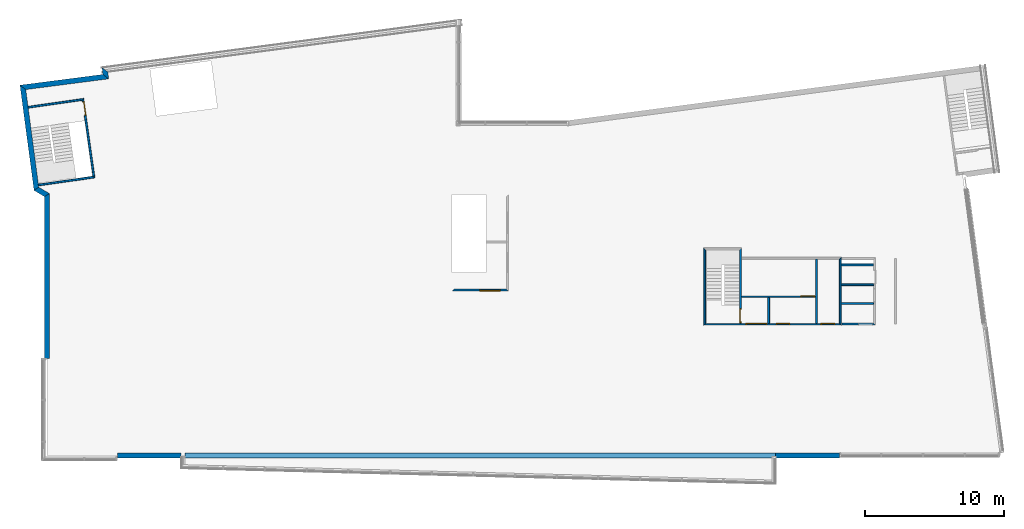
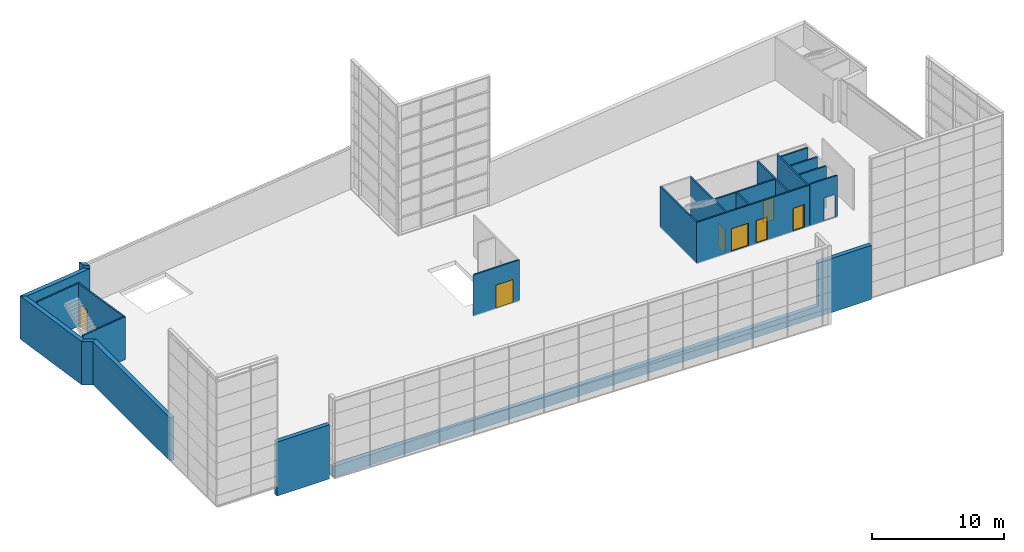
# One storey, part 19 of 27: 22 walls, 7 doors, 9 openings.
"""IFC2X3 building model written with IfcOpenShell, lengths in metres."""

from ifc_helpers import new_model, entity, si_unit, converted_unit, money_unit, direction, frame, origin_with_axes, origin_2d_with_axis, place, context, subcontext, project, spatial, polyline, rectangle, outline, extrude, faceted_brep, source, transform, mapped, material, material_list, layer, layer_set, layer_usage, type_object, element, fill, save


model = new_model("IFC2X3")

# Units and contexts
model_context = context("Model", 3, precision=1e-05, world=origin_with_axes(), true_north=direction((0.0, 1.0)))
body_context = subcontext(model_context, "Body", "Model", "MODEL_VIEW")
ifc_project = project(units=[si_unit("LENGTHUNIT", "METRE"), si_unit("AREAUNIT", "SQUARE_METRE"), si_unit("VOLUMEUNIT", "CUBIC_METRE"), converted_unit("PLANEANGLEUNIT", "DEGREE", entity("IfcPlaneAngleMeasure", 0.0174532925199), si_unit("PLANEANGLEUNIT", "RADIAN"), dimensions=[0, 0, 0, 0, 0, 0, 0]), si_unit("SOLIDANGLEUNIT", "STERADIAN"), money_unit("EUR"), converted_unit("TIMEUNIT", "Year", entity("IfcTimeMeasure", 31556926.0), si_unit("TIMEUNIT", "SECOND"), dimensions=[0, 0, 0, 0, 0, 0, 0]), si_unit("MASSUNIT", "GRAM"), si_unit("THERMODYNAMICTEMPERATUREUNIT", "DEGREE_CELSIUS"), si_unit("LUMINOUSINTENSITYUNIT", "LUMEN")], contexts=[model_context])

# Site, building, storey
site_placement = place(None, origin_with_axes())
site = spatial("IfcSite", under=ifc_project, at=site_placement, Name="Undefined", CompositionType="ELEMENT")
building_placement = place(site_placement, origin_with_axes())
building = spatial("IfcBuilding", under=site, at=building_placement, Name="Undefined", CompositionType="ELEMENT")
storey_placement = place(building_placement, frame((0.0, 0.0, 5.4), z_axis=(0.0, 0.0, 1.0), x_axis=(1.0, 0.0, 0.0)))
storey = spatial("IfcBuildingStorey", under=building, at=storey_placement, Name="R+1", CompositionType="ELEMENT", Elevation=5.4)

# Walls
ifc_material_1 = material(Name="Finition int - Enduit pl\x89tre")
ifc_layer_1 = layer(ifc_material_1, 0.015, ventilated="UNKNOWN")
ifc_material_2 = material(Name="Struct. - Parpaing b\x8eton")
ifc_layer_2 = layer(ifc_material_2, 0.1, ventilated="UNKNOWN")
ifc_layer_3 = layer(ifc_material_1, 0.015, ventilated="UNKNOWN")
ifc_layer_set_1 = layer_set([ifc_layer_1, ifc_layer_2, ifc_layer_3], Name="0.0-Cloison: parpaing + pl\x89tre 2 faces copie")
ifc_layer_usage_1 = layer_usage(ifc_layer_set_1, "AXIS2", "POSITIVE", 0.0)
wall_type_1 = type_object("IfcWallType", Name="0.0-Cloison: parpaing + pl\x89tre 2 faces copie 130", PredefinedType="NOTDEFINED")
wall_1_placement = place(storey_placement, frame((55.2463765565, 9.3149999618, -0.1), z_axis=(0.0, 0.0, 1.0), x_axis=(0.0, 1.0, 0.0)))
element("IfcWallStandardCase", 1, at=wall_1_placement, inside=storey, type_object=wall_type_1, material=ifc_layer_usage_1, Name="Wall_Int", context=body_context, shape_type="SweptSolid", body=[
    extrude(outline(polyline([(0.0, 0.0), (4.6200000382, 0.0), (4.6200000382, 0.13), (0.0, 0.13), (0.0, 0.0)])), origin_with_axes(), (0.0, 0.0, 1.0), 3.825),
])
ifc_layer_usage_2 = layer_usage(ifc_layer_set_1, "AXIS2", "POSITIVE", -0.05)
wall_2_placement = place(storey_placement, frame((59.375, 12.115, -0.1), z_axis=(0.0, 0.0, 1.0), x_axis=(-1.0, 0.0, 0.0)))
element("IfcWallStandardCase", 2, at=wall_2_placement, inside=storey, type_object=wall_type_1, material=ifc_layer_usage_2, Name="VOILE_10CM", context=body_context, shape_type="SweptSolid", body=[
    extrude(outline(polyline([(0.08, -0.05), (2.41, -0.05), (2.41, 0.08), (0.08, 0.08), (0.08, -0.05)])), origin_with_axes(), (0.0, 0.0, 1.0), 3.88499999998),
])

# Wall, openings, doors
ifc_layer_usage_3 = layer_usage(ifc_layer_set_1, "AXIS2", "POSITIVE", 0.0)
wall_3_placement = place(storey_placement, frame((56.835, 9.3149999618, -0.1), z_axis=(0.0, 0.0, 1.0), x_axis=(-1.0, 0.0, 0.0)))
wall_3 = element("IfcWallStandardCase", 3, at=wall_3_placement, inside=storey, type_object=wall_type_1, material=ifc_layer_usage_3, Name="Wall_Int_02", context=body_context, shape_type="SweptSolid", body=[
    extrude(outline(polyline([(0.0, 0.0), (9.62, 0.0), (9.75, 0.13), (-0.13, 0.13), (0.0, 0.0)])), origin_with_axes(), (0.0, 0.0, 1.0), 3.825),
])
opening_1_placement = place(wall_3_placement, frame((5.97548555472, 0.0, 0.1), z_axis=(0.0, 0.0, 1.0), x_axis=(1.0, 0.0, 0.0)))
opening_1 = element("IfcOpeningElement", 4, at=opening_1_placement, cuts=wall_3, Name="DOOR", context=body_context, shape_type="SweptSolid", body=[
    extrude(rectangle(XDim=1.5, YDim=2.1, at=origin_2d_with_axis()), frame((0.0, -0.13, 1.05), z_axis=(0.0, 1.0, 0.0), x_axis=(1.0, 0.0, 0.0)), (0.0, 0.0, 1.0), 0.13),
    extrude(rectangle(XDim=1.5, YDim=2.1, at=origin_2d_with_axis()), frame((0.0, 0.13, 1.05), z_axis=(0.0, -1.0, 0.0), x_axis=(1.0, 0.0, 0.0)), (0.0, 0.0, 1.0), 0.13),
])
opening_2_placement = place(wall_3_placement, frame((4.05960224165, 0.0, 0.1), z_axis=(0.0, 0.0, 1.0), x_axis=(1.0, 0.0, 0.0)))
opening_2 = element("IfcOpeningElement", 5, at=opening_2_placement, cuts=wall_3, Name="DOOR_1000", context=body_context, shape_type="SweptSolid", body=[
    extrude(rectangle(XDim=1.0, YDim=2.1, at=origin_2d_with_axis()), frame((0.0, -0.13, 1.05), z_axis=(0.0, 1.0, 0.0), x_axis=(1.0, 0.0, 0.0)), (0.0, 0.0, 1.0), 0.13),
    extrude(rectangle(XDim=1.0, YDim=2.1, at=origin_2d_with_axis()), frame((0.0, 0.13, 1.05), z_axis=(0.0, -1.0, 0.0), x_axis=(1.0, 0.0, 0.0)), (0.0, 0.0, 1.0), 0.13),
])
opening_3_placement = place(wall_3_placement, frame((0.834117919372, 0.0, 0.1), z_axis=(0.0, 0.0, 1.0), x_axis=(1.0, 0.0, 0.0)))
opening_3 = element("IfcOpeningElement", 6, at=opening_3_placement, cuts=wall_3, Name="DOOR_1000", context=body_context, shape_type="SweptSolid", body=[
    extrude(rectangle(XDim=1.0, YDim=2.1, at=origin_2d_with_axis()), frame((0.0, -0.13, 1.05), z_axis=(0.0, 1.0, 0.0), x_axis=(1.0, 0.0, 0.0)), (0.0, 0.0, 1.0), 0.13),
    extrude(rectangle(XDim=1.0, YDim=2.1, at=origin_2d_with_axis()), frame((0.0, 0.13, 1.05), z_axis=(0.0, -1.0, 0.0), x_axis=(1.0, 0.0, 0.0)), (0.0, 0.0, 1.0), 0.13),
])
ifc_material_3 = material(Name="Background Fill-International")
ifc_material_4 = material(Name="Air Space")
ifc_material_list = material_list([ifc_material_3, ifc_material_4])
door_style_1 = type_object("IfcDoorStyle", Name="IFC Porte - Simple battant", ConstructionType="NOTDEFINED", OperationType="SINGLE_SWING_LEFT", ParameterTakesPrecedence=True, Sizeable=False)
shared_shape_1 = source(origin_with_axes(), body_context, "Body", "Brep", [
    faceted_brep([(0.5, 0.0, 0.0), (0.5, -0.1, 0.0), (0.45, -0.1, 0.0), (0.45, 0.0, 0.0), (0.5, 0.0, 2.1), (0.5, -0.1, 2.1), (-0.5, -0.1, 2.1), (-0.5, -0.1, 0.0), (-0.45, -0.1, 0.0), (-0.45, -0.1, 2.05), (0.45, -0.1, 2.05), (0.45, 0.0, 2.05), (-0.45, 0.0, 2.05), (-0.45, 0.0, 0.0), (-0.5, 0.0, 0.0), (-0.5, 0.0, 2.1)], [[[0, 1, 2, 3]], [[4, 5, 1, 0]], [[1, 5, 6, 7, 8, 9, 10, 2]], [[3, 2, 10, 11]], [[0, 3, 11, 12, 13, 14, 15, 4]], [[15, 6, 5, 4]], [[14, 7, 6, 15]], [[13, 8, 7, 14]], [[12, 9, 8, 13]], [[11, 10, 9, 12]]]),
    faceted_brep([(-0.45, 0.0, 0.0), (-0.45, -0.04, 0.0), (-0.45, -0.04, 2.05), (-0.45, 0.0, 2.05), (0.45, 0.0, 0.0), (0.45, -0.04, 0.0), (0.45, -0.04, 2.05), (0.45, 0.0, 2.05)], [[[0, 1, 2, 3]], [[4, 5, 1, 0]], [[1, 5, 6, 2]], [[3, 2, 6, 7]], [[0, 3, 7, 4]], [[7, 6, 5, 4]]]),
])
door_1_placement = place(opening_2_placement, frame((0.5, 0.0, 0.0), z_axis=(0.0, 0.0, 1.0), x_axis=(-1.0, 0.0, 0.0)))
door_1 = element("IfcDoor", 7, at=door_1_placement, inside=storey, type_object=door_style_1, material=ifc_material_list, Name="DOOR_1000", ObjectType="DOOR", OverallHeight=2.1, OverallWidth=1.0, context=body_context, shape_type="MappedRepresentation", body=[
    mapped(shared_shape_1, transform((0.5, 0.0, 0.0))),
])
fill(opening_2, door_1)
door_2_placement = place(opening_3_placement, frame((0.5, 0.0, 0.0), z_axis=(0.0, 0.0, 1.0), x_axis=(-1.0, 0.0, 0.0)))
door_2 = element("IfcDoor", 8, at=door_2_placement, inside=storey, type_object=door_style_1, material=ifc_material_list, Name="DOOR_1000", ObjectType="DOOR", OverallHeight=2.1, OverallWidth=1.0, context=body_context, shape_type="MappedRepresentation", body=[
    mapped(shared_shape_1, transform((0.5, 0.0, 0.0))),
])
fill(opening_3, door_2)
door_style_2 = type_object("IfcDoorStyle", Name="IFC Porte double - Simple battant", ConstructionType="ALUMINIUM", OperationType="DOUBLE_DOOR_SINGLE_SWING", ParameterTakesPrecedence=True, Sizeable=False)
shared_shape_2 = source(origin_with_axes(), body_context, "Body", "Brep", [
    faceted_brep([(0.75, 0.0, 0.0), (0.75, -0.1, 0.0), (0.7, -0.1, 0.0), (0.7, 0.0, 0.0), (0.75, 0.0, 2.1), (0.75, -0.1, 2.1), (-0.75, -0.1, 2.1), (-0.75, -0.1, 0.0), (-0.7, -0.1, 0.0), (-0.7, -0.1, 2.05), (0.7, -0.1, 2.05), (0.7, 0.0, 2.05), (-0.7, 0.0, 2.05), (-0.7, 0.0, 0.0), (-0.75, 0.0, 0.0), (-0.75, 0.0, 2.1)], [[[0, 1, 2, 3]], [[4, 5, 1, 0]], [[1, 5, 6, 7, 8, 9, 10, 2]], [[3, 2, 10, 11]], [[0, 3, 11, 12, 13, 14, 15, 4]], [[15, 6, 5, 4]], [[14, 7, 6, 15]], [[13, 8, 7, 14]], [[12, 9, 8, 13]], [[11, 10, 9, 12]]]),
    faceted_brep([(-0.7, 0.0, 0.0), (-0.7, -0.04, 0.0), (-0.7, -0.04, 2.05), (-0.7, 0.0, 2.05), (0.42, 0.0, 0.0), (0.42, -0.04, 0.0), (0.42, -0.04, 2.05), (0.42, 0.0, 2.05)], [[[0, 1, 2, 3]], [[4, 5, 1, 0]], [[1, 5, 6, 2]], [[3, 2, 6, 7]], [[0, 3, 7, 4]], [[7, 6, 5, 4]]]),
    faceted_brep([(0.7, 0.0, 0.0), (0.7, -0.04, 0.0), (0.42, -0.04, 0.0), (0.42, 0.0, 0.0), (0.7, 0.0, 2.05), (0.7, -0.04, 2.05), (0.42, -0.04, 2.05), (0.42, 0.0, 2.05)], [[[0, 1, 2, 3]], [[4, 5, 1, 0]], [[1, 5, 6, 2]], [[3, 2, 6, 7]], [[0, 3, 7, 4]], [[7, 6, 5, 4]]]),
])
door_3_placement = place(opening_1_placement, frame((0.75, 0.0, 0.0), z_axis=(0.0, 0.0, 1.0), x_axis=(-1.0, 0.0, 0.0)))
door_3 = element("IfcDoor", 9, at=door_3_placement, inside=storey, type_object=door_style_2, material=ifc_material_list, Name="DOOR", ObjectType="DOOR", OverallHeight=2.1, OverallWidth=1.5, context=body_context, shape_type="MappedRepresentation", body=[
    mapped(shared_shape_2, transform((0.75, 0.0, 0.0))),
])
fill(opening_1, door_3)

# Wall, opening
ifc_layer_usage_4 = layer_usage(ifc_layer_set_1, "AXIS2", "POSITIVE", -0.05)
wall_4_placement = place(storey_placement, frame((57.0135327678, 9.245, -0.1), z_axis=(0.0, 0.0, 1.0), x_axis=(1.0, 0.0, 0.0)))
wall_4 = element("IfcWallStandardCase", 10, at=wall_4_placement, inside=storey, type_object=wall_type_1, material=ifc_layer_usage_4, Name="VOILE_10CM", context=body_context, shape_type="SweptSolid", body=[
    extrude(outline(polyline([(0.0, -0.05), (2.41146723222, -0.05), (2.28146723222, 0.08), (0.0, 0.08), (0.0, -0.05)])), origin_with_axes(), (0.0, 0.0, 1.0), 3.88499999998),
])
opening_4_placement = place(wall_4_placement, frame((1.70624922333, 0.0, 0.1), z_axis=(0.0, 0.0, 1.0), x_axis=(1.0, 0.0, 0.0)))
element("IfcOpeningElement", 11, at=opening_4_placement, cuts=wall_4, Name="DOOR_1000", context=body_context, shape_type="SweptSolid", body=[
    extrude(rectangle(XDim=1.0, YDim=2.1, at=origin_2d_with_axis()), frame((0.0, 0.13, 1.05), z_axis=(0.0, 1.0, 0.0), x_axis=(1.0, 0.0, 0.0)), (0.0, 0.0, -1.0), 0.39),
    extrude(rectangle(XDim=1.02, YDim=2.11, at=origin_2d_with_axis()), frame((0.0, 0.21, 1.055), z_axis=(0.0, 1.0, 0.0), x_axis=(1.0, 0.0, 0.0)), (0.0, 0.0, -1.0), 0.13),
    extrude(rectangle(XDim=1.02, YDim=2.11, at=origin_2d_with_axis()), frame((0.0, -0.18, 1.055), z_axis=(0.0, -1.0, 0.0), x_axis=(1.0, 0.0, 0.0)), (0.0, 0.0, -1.0), 0.13),
])

# Wall
ifc_layer_usage_5 = layer_usage(ifc_layer_set_1, "AXIS2", "POSITIVE", 0.0)
wall_5_placement = place(storey_placement, frame((51.6756910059, 11.1599999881, -0.1), z_axis=(0.0, 0.0, 1.0), x_axis=(0.0, -1.0, 0.0)))
element("IfcWallStandardCase", 12, at=wall_5_placement, inside=storey, type_object=wall_type_1, material=ifc_layer_usage_5, Name="Wall_Int", context=body_context, shape_type="SweptSolid", body=[
    extrude(outline(polyline([(0.0, 0.0), (1.84500002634, 0.0), (1.84500002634, 0.13), (0.0, 0.13), (0.0, 0.0)])), origin_with_axes(), (0.0, 0.0, 1.0), 3.825),
])

# Wall, opening, door
ifc_layer_usage_6 = layer_usage(ifc_layer_set_1, "AXIS2", "POSITIVE", 0.0)
wall_6_placement = place(storey_placement, frame((49.6599999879, 11.1599999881, -0.1), z_axis=(0.0, 0.0, 1.0), x_axis=(1.0, 0.0, 0.0)))
wall_6 = element("IfcWallStandardCase", 13, at=wall_6_placement, inside=storey, type_object=wall_type_1, material=ifc_layer_usage_6, Name="Wall_Int_02", context=body_context, shape_type="SweptSolid", body=[
    extrude(outline(polyline([(0.13, 0.0), (5.45637656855, 0.0), (5.45637656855, 0.13), (0.13, 0.13), (0.13, 0.0)])), origin_with_axes(), (0.0, 0.0, 1.0), 3.825),
])
opening_5_placement = place(wall_6_placement, frame((4.89427702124, 0.0, 0.1), z_axis=(0.0, 0.0, 1.0), x_axis=(1.0, 0.0, 0.0)))
opening_5 = element("IfcOpeningElement", 14, at=opening_5_placement, cuts=wall_6, Name="DOOR_1000", context=body_context, shape_type="SweptSolid", body=[
    extrude(rectangle(XDim=1.0, YDim=2.1, at=origin_2d_with_axis()), frame((0.0, 0.26, 1.05), z_axis=(0.0, -1.0, 0.0), x_axis=(1.0, 0.0, 0.0)), (0.0, 0.0, 1.0), 0.13),
    extrude(rectangle(XDim=1.0, YDim=2.1, at=origin_2d_with_axis()), frame((0.0, 0.0, 1.05), z_axis=(0.0, 1.0, 0.0), x_axis=(1.0, 0.0, 0.0)), (0.0, 0.0, 1.0), 0.13),
])
door_style_3 = type_object("IfcDoorStyle", Name="IFC Porte - Simple battant", ConstructionType="NOTDEFINED", OperationType="SINGLE_SWING_LEFT", ParameterTakesPrecedence=True, Sizeable=False)
door_4_placement = place(opening_5_placement, frame((-0.5, 0.0, 0.0), z_axis=(0.0, 0.0, 1.0), x_axis=(1.0, 0.0, 0.0)))
door_4 = element("IfcDoor", 15, at=door_4_placement, inside=storey, type_object=door_style_3, material=ifc_material_list, Name="DOOR_1000", ObjectType="DOOR", OverallHeight=2.1, OverallWidth=1.0, context=body_context, shape_type="MappedRepresentation", body=[
    mapped(shared_shape_1, transform((0.5, 0.13, 0.0))),
])
fill(opening_5, door_4)

# Walls
ifc_layer_usage_7 = layer_usage(ifc_layer_set_1, "AXIS2", "POSITIVE", 0.0)
wall_7_placement = place(storey_placement, frame((-1.89961707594, 24.7471726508, 0.0), z_axis=(0.0, 0.0, 1.0), x_axis=(0.989875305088, 0.141939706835, 0.0)))
element("IfcWallStandardCase", 16, at=wall_7_placement, inside=storey, type_object=wall_type_1, material=ifc_layer_usage_7, Name="Wall_Int_02", context=body_context, shape_type="SweptSolid", body=[
    extrude(outline(polyline([(0.37001767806, 0.0), (4.28616245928, 0.0), (4.41629541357, 0.13), (0.371288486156, 0.13), (0.37001767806, 0.0)])), origin_with_axes(), (0.0, 0.0, 1.0), 3.95),
])
ifc_layer_usage_8 = layer_usage(ifc_layer_set_1, "AXIS2", "POSITIVE", 0.0)
wall_8_placement = place(storey_placement, frame((-1.15387797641, 19.1581406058, 0.0), z_axis=(0.0, 0.0, 1.0), x_axis=(0.990116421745, 0.140247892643, 0.0)))
element("IfcWallStandardCase", 17, at=wall_8_placement, inside=storey, type_object=wall_type_1, material=ifc_layer_usage_8, Name="Wall_Int_02", context=body_context, shape_type="SweptSolid", body=[
    extrude(outline(polyline([(0.370012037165, 0.0), (4.46551461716, 0.0), (4.33542531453, 0.13), (0.371060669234, 0.13), (0.370012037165, 0.0)])), origin_with_axes(), (0.0, 0.0, 1.0), 3.95),
])

# Wall, opening, door
ifc_layer_usage_9 = layer_usage(ifc_layer_set_1, "AXIS2", "POSITIVE", 0.0)
wall_9_placement = place(storey_placement, frame((3.26750137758, 19.7844196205, 0.0), z_axis=(0.0, 0.0, 1.0), x_axis=(-0.140927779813, 0.990019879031, 0.0)))
wall_9 = element("IfcWallStandardCase", 18, at=wall_9_placement, inside=storey, type_object=wall_type_1, material=ifc_layer_usage_9, Name="Wall_Int_02", context=body_context, shape_type="SweptSolid", body=[
    extrude(outline(polyline([(0.0, 0.0), (5.77592896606, 0.0), (5.64579601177, 0.13), (0.13008930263, 0.13), (0.0, 0.0)])), origin_with_axes(), (0.0, 0.0, 1.0), 3.95),
])
opening_6_placement = place(wall_9_placement, frame((5.05291872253, 0.0, 0.0), z_axis=(0.0, 0.0, 1.0), x_axis=(1.0, 0.0, 0.0)))
opening_6 = element("IfcOpeningElement", 19, at=opening_6_placement, cuts=wall_9, Name="DOOR_1000", context=body_context, shape_type="SweptSolid", body=[
    extrude(rectangle(XDim=1.0, YDim=2.1, at=origin_2d_with_axis()), frame((0.0, -0.13, 1.05), z_axis=(0.0, 1.0, 0.0), x_axis=(1.0, 0.0, 0.0)), (0.0, 0.0, 1.0), 0.13),
    extrude(rectangle(XDim=1.0, YDim=2.1, at=origin_2d_with_axis()), frame((0.0, 0.13, 1.05), z_axis=(0.0, -1.0, 0.0), x_axis=(1.0, 0.0, 0.0)), (0.0, 0.0, 1.0), 0.13),
])
door_style_4 = type_object("IfcDoorStyle", Name="IFC Porte - Simple battant", ConstructionType="NOTDEFINED", OperationType="SINGLE_SWING_RIGHT", ParameterTakesPrecedence=True, Sizeable=False)
shared_shape_3 = source(origin_with_axes(), body_context, "Body", "Brep", [
    faceted_brep([(-0.5, 0.0, 0.0), (-0.45, 0.0, 0.0), (-0.45, -0.1, 0.0), (-0.5, -0.1, 0.0), (-0.5, 0.0, 2.1), (0.5, 0.0, 2.1), (0.5, 0.0, 0.0), (0.45, 0.0, 0.0), (0.45, 0.0, 2.05), (-0.45, 0.0, 2.05), (-0.45, -0.1, 2.05), (0.45, -0.1, 2.05), (0.45, -0.1, 0.0), (0.5, -0.1, 0.0), (0.5, -0.1, 2.1), (-0.5, -0.1, 2.1)], [[[0, 1, 2, 3]], [[0, 4, 5, 6, 7, 8, 9, 1]], [[1, 9, 10, 2]], [[3, 2, 10, 11, 12, 13, 14, 15]], [[4, 0, 3, 15]], [[5, 4, 15, 14]], [[6, 5, 14, 13]], [[7, 6, 13, 12]], [[8, 7, 12, 11]], [[9, 8, 11, 10]]]),
    faceted_brep([(0.45, 0.0, 0.0), (0.45, 0.0, 2.05), (0.45, -0.04, 2.05), (0.45, -0.04, 0.0), (-0.45, 0.0, 0.0), (-0.45, 0.0, 2.05), (-0.45, -0.04, 2.05), (-0.45, -0.04, 0.0)], [[[0, 1, 2, 3]], [[0, 4, 5, 1]], [[1, 5, 6, 2]], [[3, 2, 6, 7]], [[4, 0, 3, 7]], [[5, 4, 7, 6]]]),
])
door_5_placement = place(opening_6_placement, frame((0.5, 0.0, 0.0), z_axis=(0.0, 0.0, 1.0), x_axis=(-1.0, 0.0, 0.0)))
door_5 = element("IfcDoor", 20, at=door_5_placement, inside=storey, type_object=door_style_4, material=ifc_material_list, Name="DOOR_1000", ObjectType="DOOR", OverallHeight=2.1, OverallWidth=1.0, context=body_context, shape_type="MappedRepresentation", body=[
    mapped(shared_shape_3, transform((0.5, 0.0, 0.0))),
])
fill(opening_6, door_5)

# Wall
ifc_layer_usage_10 = layer_usage(ifc_layer_set_1, "AXIS2", "POSITIVE", 0.0)
wall_10_placement = place(storey_placement, frame((47.085, 14.6097478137, -0.1), z_axis=(0.0, 0.0, 1.0), x_axis=(0.0, -1.0, 0.0)))
element("IfcWallStandardCase", 21, at=wall_10_placement, inside=storey, type_object=wall_type_1, material=ifc_layer_usage_10, Name="Wall_Int_02", context=body_context, shape_type="SweptSolid", body=[
    extrude(outline(polyline([(-0.130000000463, 0.0), (5.42474785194, 0.0), (5.29474785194, 0.13), (-1.09773673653e-05, 0.13), (-0.130000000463, 0.0)])), origin_with_axes(), (0.0, 0.0, 1.0), 3.825),
])

# Wall, opening, door
ifc_layer_usage_11 = layer_usage(ifc_layer_set_1, "AXIS2", "POSITIVE", 0.0)
wall_11_placement = place(storey_placement, frame((49.6599999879, 14.6099652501, -0.1), z_axis=(0.0, 0.0, 1.0), x_axis=(0.0, -1.0, 0.0)))
wall_11 = element("IfcWallStandardCase", 22, at=wall_11_placement, inside=storey, type_object=wall_type_1, material=ifc_layer_usage_11, Name="Wall_Int_02", context=body_context, shape_type="SweptSolid", body=[
    extrude(outline(polyline([(0.0, 0.0), (5.29496528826, 0.0), (5.29496528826, 0.13), (-0.130010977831, 0.13), (0.0, 0.0)])), origin_with_axes(), (0.0, 0.0, 1.0), 3.825),
])
opening_7_placement = place(wall_11_placement, frame((4.73496525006, 0.0, 0.0), z_axis=(0.0, 0.0, 1.0), x_axis=(1.0, 0.0, 0.0)))
opening_7 = element("IfcOpeningElement", 23, at=opening_7_placement, cuts=wall_11, Name="DOOR_1000", context=body_context, shape_type="SweptSolid", body=[
    extrude(rectangle(XDim=1.0, YDim=2.1, at=origin_2d_with_axis()), frame((0.0, -0.13, 1.05), z_axis=(0.0, 1.0, 0.0), x_axis=(1.0, 0.0, 0.0)), (0.0, 0.0, 1.0), 0.13),
    extrude(rectangle(XDim=1.0, YDim=2.1, at=origin_2d_with_axis()), frame((0.0, 0.13, 1.05), z_axis=(0.0, -1.0, 0.0), x_axis=(1.0, 0.0, 0.0)), (0.0, 0.0, 1.0), 0.13),
])
door_6_placement = place(opening_7_placement, frame((0.5, 0.0, 0.0), z_axis=(0.0, 0.0, 1.0), x_axis=(-1.0, 0.0, 0.0)))
door_6 = element("IfcDoor", 24, at=door_6_placement, inside=storey, type_object=door_style_1, material=ifc_material_list, Name="DOOR_1000", ObjectType="DOOR", OverallHeight=2.1, OverallWidth=1.0, context=body_context, shape_type="MappedRepresentation", body=[
    mapped(shared_shape_1, transform((0.5, 0.0, 0.0))),
])
fill(opening_7, door_6)

# Walls
ifc_layer_usage_12 = layer_usage(ifc_layer_set_1, "AXIS2", "NEGATIVE", 0.05)
wall_12_placement = place(storey_placement, frame((59.375, 13.51, -0.1), z_axis=(0.0, 0.0, 1.0), x_axis=(-1.0, 0.0, 0.0)))
element("IfcWallStandardCase", 25, at=wall_12_placement, inside=storey, type_object=wall_type_1, material=ifc_layer_usage_12, Name="VOILE_10CM", context=body_context, shape_type="SweptSolid", body=[
    extrude(outline(polyline([(0.08, -0.08), (2.41, -0.08), (2.41, 0.05), (0.08, 0.05), (0.08, -0.08)])), origin_with_axes(), (0.0, 0.0, 1.0), 3.88499999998),
])
ifc_layer_usage_13 = layer_usage(ifc_layer_set_1, "AXIS2", "POSITIVE", -0.05)
wall_13_placement = place(storey_placement, frame((59.375, 10.7644683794, -0.1), z_axis=(0.0, 0.0, 1.0), x_axis=(-1.0, 0.0, 0.0)))
element("IfcWallStandardCase", 26, at=wall_13_placement, inside=storey, type_object=wall_type_1, material=ifc_layer_usage_13, Name="Wall_Int_07", context=body_context, shape_type="SweptSolid", body=[
    extrude(outline(polyline([(0.08, -0.05), (2.41, -0.05), (2.41, 0.08), (0.08, 0.08), (0.08, -0.05)])), origin_with_axes(), (0.0, 0.0, 1.0), 3.88499999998),
])
ifc_layer_usage_14 = layer_usage(ifc_layer_set_1, "AXIS2", "NEGATIVE", 0.0)
wall_14_placement = place(storey_placement, frame((56.835, 9.3149999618, -0.1), z_axis=(0.0, 0.0, 1.0), x_axis=(0.0, 1.0, 0.0)))
element("IfcWallStandardCase", 27, at=wall_14_placement, inside=storey, type_object=wall_type_1, material=ifc_layer_usage_14, Name="Wall_Int_07", context=body_context, shape_type="SweptSolid", body=[
    extrude(outline(polyline([(-0.13, -0.13), (4.7500000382, -0.13), (4.6200000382, 0.0), (0.0, 0.0), (-0.13, -0.13)])), origin_with_axes(), (0.0, 0.0, 1.0), 3.825),
])

# Wall, opening, door
ifc_layer_usage_15 = layer_usage(ifc_layer_set_1, "AXIS2", "NEGATIVE", 0.0)
wall_15_placement = place(storey_placement, frame((33.0137357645, 11.6449226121, -0.1), z_axis=(0.0, 0.0, 1.0), x_axis=(-1.0, 0.0, 0.0)))
wall_15 = element("IfcWallStandardCase", 28, at=wall_15_placement, inside=storey, type_object=wall_type_1, material=ifc_layer_usage_15, Name="Wall_Int_02", context=body_context, shape_type="SweptSolid", body=[
    extrude(outline(polyline([(0.13, -0.13), (3.92496966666, -0.13), (4.05496966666, 0.0), (0.0, 0.0), (0.13, -0.13)])), origin_with_axes(), (0.0, 0.0, 1.0), 3.825),
])
opening_8_placement = place(wall_15_placement, frame((1.31627256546, 0.0, 0.1), z_axis=(0.0, 0.0, 1.0), x_axis=(1.0, 0.0, 0.0)))
opening_8 = element("IfcOpeningElement", 29, at=opening_8_placement, cuts=wall_15, Name="DOOR", context=body_context, shape_type="SweptSolid", body=[
    extrude(rectangle(XDim=1.5, YDim=2.1, at=origin_2d_with_axis()), frame((0.0, 0.13, 1.05), z_axis=(0.0, -1.0, 0.0), x_axis=(1.0, 0.0, 0.0)), (0.0, 0.0, 1.0), 0.13),
    extrude(rectangle(XDim=1.5, YDim=2.1, at=origin_2d_with_axis()), frame((0.0, -0.13, 1.05), z_axis=(0.0, 1.0, 0.0), x_axis=(1.0, 0.0, 0.0)), (0.0, 0.0, 1.0), 0.13),
])
door_style_5 = type_object("IfcDoorStyle", Name="IFC Porte double - Simple battant", ConstructionType="ALUMINIUM", OperationType="DOUBLE_DOOR_SINGLE_SWING", ParameterTakesPrecedence=True, Sizeable=False)
shared_shape_4 = source(origin_with_axes(), body_context, "Body", "Brep", [
    faceted_brep([(-0.75, 0.0, 0.0), (-0.7, 0.0, 0.0), (-0.7, -0.1, 0.0), (-0.75, -0.1, 0.0), (-0.75, 0.0, 2.1), (0.75, 0.0, 2.1), (0.75, 0.0, 0.0), (0.7, 0.0, 0.0), (0.7, 0.0, 2.05), (-0.7, 0.0, 2.05), (-0.7, -0.1, 2.05), (0.7, -0.1, 2.05), (0.7, -0.1, 0.0), (0.75, -0.1, 0.0), (0.75, -0.1, 2.1), (-0.75, -0.1, 2.1)], [[[0, 1, 2, 3]], [[0, 4, 5, 6, 7, 8, 9, 1]], [[1, 9, 10, 2]], [[3, 2, 10, 11, 12, 13, 14, 15]], [[4, 0, 3, 15]], [[5, 4, 15, 14]], [[6, 5, 14, 13]], [[7, 6, 13, 12]], [[8, 7, 12, 11]], [[9, 8, 11, 10]]]),
    faceted_brep([(0.7, 0.0, 0.0), (0.7, 0.0, 2.05), (0.7, -0.04, 2.05), (0.7, -0.04, 0.0), (0.0, 0.0, 0.0), (0.0, 0.0, 2.05), (0.0, -0.04, 2.05), (0.0, -0.04, 0.0)], [[[0, 1, 2, 3]], [[0, 4, 5, 1]], [[1, 5, 6, 2]], [[3, 2, 6, 7]], [[4, 0, 3, 7]], [[5, 4, 7, 6]]]),
    faceted_brep([(-0.7, 0.0, 0.0), (0.0, 0.0, 0.0), (0.0, -0.04, 0.0), (-0.7, -0.04, 0.0), (-0.7, 0.0, 2.05), (0.0, 0.0, 2.05), (0.0, -0.04, 2.05), (-0.7, -0.04, 2.05)], [[[0, 1, 2, 3]], [[0, 4, 5, 1]], [[1, 5, 6, 2]], [[3, 2, 6, 7]], [[4, 0, 3, 7]], [[5, 4, 7, 6]]]),
])
door_7_placement = place(opening_8_placement, frame((-0.75, 0.0, 0.0), z_axis=(0.0, 0.0, 1.0), x_axis=(1.0, 0.0, 0.0)))
door_7 = element("IfcDoor", 30, at=door_7_placement, inside=storey, type_object=door_style_5, material=ifc_material_list, Name="DOOR", ObjectType="DOOR", OverallHeight=2.1, OverallWidth=1.5, context=body_context, shape_type="MappedRepresentation", body=[
    mapped(shared_shape_4, transform((0.75, 0.0, 0.0))),
])
fill(opening_8, door_7)

# Walls
ifc_material_5 = material(Name="Finition ext - Cr\x8epis")
ifc_layer_4 = layer(ifc_material_5, 0.015, ventilated="UNKNOWN")
ifc_material_6 = material(Name="Isolation - Fibres de bois")
ifc_layer_5 = layer(ifc_material_6, 0.16, ventilated="UNKNOWN")
ifc_material_7 = material(Name="Struct. - B.A. banch\x8e")
ifc_layer_6 = layer(ifc_material_7, 0.18, ventilated="UNKNOWN")
ifc_layer_7 = layer(ifc_material_1, 0.015, ventilated="UNKNOWN")
ifc_layer_set_2 = layer_set([ifc_layer_4, ifc_layer_5, ifc_layer_6, ifc_layer_7], Name="1.2-Mur ext: rev\x8et ext + isol ext + ma\x8donnerie + enduit")
ifc_layer_usage_16 = layer_usage(ifc_layer_set_2, "AXIS2", "POSITIVE", -0.37)
wall_type_2 = type_object("IfcWallType", Name="1.2-Mur ext: rev\x8et ext + isol ext + ma\x8donnerie + enduit 370", PredefinedType="NOTDEFINED")
wall_16_placement = place(storey_placement, frame((3.88648464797, 26.8622125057, -0.28), z_axis=(0.0, 0.0, 1.0), x_axis=(-0.991731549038, -0.128329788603, 0.0)))
element("IfcWallStandardCase", 31, at=wall_16_placement, inside=storey, type_object=wall_type_2, material=ifc_layer_usage_16, Name="WallEx02", ObjectType="WALL", context=body_context, shape_type="SweptSolid", body=[
    extrude(outline(polyline([(0.0014656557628, -0.37), (6.01651490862, -0.37), (5.64504646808, 0.0), (-0.37000290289, 0.0), (0.0014656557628, -0.37)])), origin_with_axes(), (0.0, 0.0, 1.0), 4.005),
])
ifc_layer_usage_17 = layer_usage(ifc_layer_set_2, "AXIS2", "POSITIVE", 0.0)
wall_17_placement = place(storey_placement, frame((3.77156587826, 27.7234830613, 0.0), z_axis=(0.0, 0.0, 1.0), x_axis=(0.1322572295, -0.991215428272, 0.0)))
element("IfcWallStandardCase", 32, at=wall_17_placement, inside=storey, type_object=wall_type_2, material=ifc_layer_usage_17, Name="WallEx02", ObjectType="WALL", context=body_context, shape_type="SweptSolid", body=[
    extrude(outline(polyline([(0.0, 0.0), (0.498900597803, 0.0), (0.870369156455, 0.37), (0.370370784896, 0.37), (0.0, 0.0)])), origin_with_axes(), (0.0, 0.0, 1.0), 4.0),
])
ifc_layer_usage_18 = layer_usage(ifc_layer_set_2, "AXIS2", "POSITIVE", 0.0)
wall_18_placement = place(storey_placement, frame((-0.37, 18.441912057, -0.28), z_axis=(0.0, 0.0, 1.0), x_axis=(0.0, -1.0, 0.0)))
element("IfcWallStandardCase", 33, at=wall_18_placement, inside=storey, type_object=wall_type_2, material=ifc_layer_usage_18, Name="WallEx", ObjectType="WALL", context=body_context, shape_type="SweptSolid", body=[
    extrude(outline(polyline([(0.0, 0.0), (11.6416724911, 0.0), (11.6416724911, 0.37), (-0.210444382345, 0.37), (0.0, 0.0)])), origin_with_axes(), (0.0, 0.0, 1.0), 4.005),
])
ifc_layer_usage_19 = layer_usage(ifc_layer_set_2, "AXIS2", "POSITIVE", 0.0)
wall_19_placement = place(storey_placement, frame((-1.11763836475, 18.886538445, -0.28), z_axis=(0.0, 0.0, 1.0), x_axis=(0.859493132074, -0.51114729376, 0.0)))
element("IfcWallStandardCase", 34, at=wall_19_placement, inside=storey, type_object=wall_type_2, material=ifc_layer_usage_19, Name="WallEx", ObjectType="WALL", context=body_context, shape_type="SweptSolid", body=[
    extrude(outline(polyline([(0.0, 0.0), (0.869859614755, 0.0), (1.0803039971, 0.37), (0.179102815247, 0.37), (0.0, 0.0)])), origin_with_axes(), (0.0, 0.0, 1.0), 4.005),
])
ifc_layer_usage_20 = layer_usage(ifc_layer_set_2, "AXIS2", "POSITIVE", 0.0)
wall_20_placement = place(storey_placement, frame((-2.07882958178, 26.0903024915, -0.28), z_axis=(0.0, 0.0, 1.0), x_axis=(0.132256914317, -0.991215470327, 0.0)))
element("IfcWallStandardCase", 35, at=wall_20_placement, inside=storey, type_object=wall_type_2, material=ifc_layer_usage_20, Name="WallEx", ObjectType="WALL", context=body_context, shape_type="SweptSolid", body=[
    extrude(outline(polyline([(-0.370002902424, 0.0), (7.26760655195, 0.0), (7.08850373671, 0.37), (0.00146553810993, 0.37), (-0.370002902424, 0.0)])), origin_with_axes(), (0.0, 0.0, 1.0), 4.005),
])

# Wall, opening
ifc_layer_usage_21 = layer_usage(ifc_layer_set_2, "AXIS2", "POSITIVE", 0.0)
wall_21_placement = place(storey_placement, frame((9.74999997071, -0.37, -1.0), z_axis=(0.0, 0.0, 1.0), x_axis=(1.0, 0.0, 0.0)))
wall_21 = element("IfcWallStandardCase", 36, at=wall_21_placement, inside=storey, type_object=wall_type_2, material=ifc_layer_usage_21, Name="ExtWall_01", ObjectType="WALL", context=body_context, shape_type="SweptSolid", body=[
    extrude(outline(polyline([(0.0, 0.0), (47.1000000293, 0.0), (47.1000000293, 0.37), (0.0, 0.37), (0.0, 0.0)])), origin_with_axes(), (0.0, 0.0, 1.0), 5.0),
])
opening_9_placement = place(wall_21_placement, frame((21.2131661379, 0.0, 0.999999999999), z_axis=(0.0, 0.0, 1.0), x_axis=(1.0, 0.0, 0.0)))
element("IfcOpeningElement", 37, at=opening_9_placement, cuts=wall_21, Name="WD - 002", context=body_context, shape_type="SweptSolid", body=[
    extrude(rectangle(XDim=42.5225315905, YDim=4.00452915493, at=origin_2d_with_axis()), frame((0.0, -0.25, 2.00226457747), z_axis=(0.0, 1.0, 0.0), x_axis=(1.0, 0.0, 0.0)), (0.0, 0.0, 1.0), 0.37),
    extrude(rectangle(XDim=42.5225315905, YDim=4.00452915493, at=origin_2d_with_axis()), frame((0.0, 0.49, 2.00226457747), z_axis=(0.0, -1.0, 0.0), x_axis=(1.0, 0.0, 0.0)), (0.0, 0.0, 1.0), 0.37),
])

# Wall
ifc_layer_usage_22 = layer_usage(ifc_layer_set_2, "AXIS2", "POSITIVE", 0.0)
wall_22_placement = place(storey_placement, frame((4.87214994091, -0.369999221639, -1.0), z_axis=(0.0, 0.0, 1.0), x_axis=(1.0, -1.70027538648e-07, 0.0)))
element("IfcWallStandardCase", 38, at=wall_22_placement, inside=storey, type_object=wall_type_2, material=ifc_layer_usage_22, Name="ExtWall_01", ObjectType="WALL", context=body_context, shape_type="SweptSolid", body=[
    extrude(outline(polyline([(0.0, 0.0), (4.5778500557, 0.0), (4.5778500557, 0.37), (0.0, 0.37), (0.0, 0.0)])), origin_with_axes(), (0.0, 0.0, 1.0), 5.0),
])

save(model, "model.ifc")
